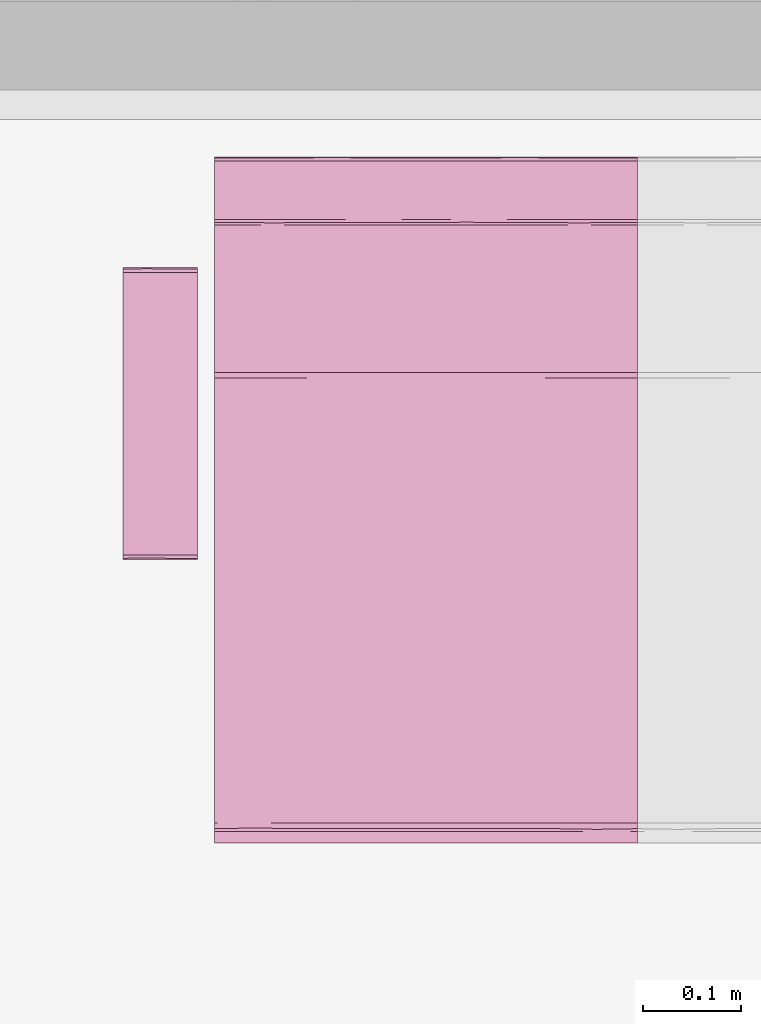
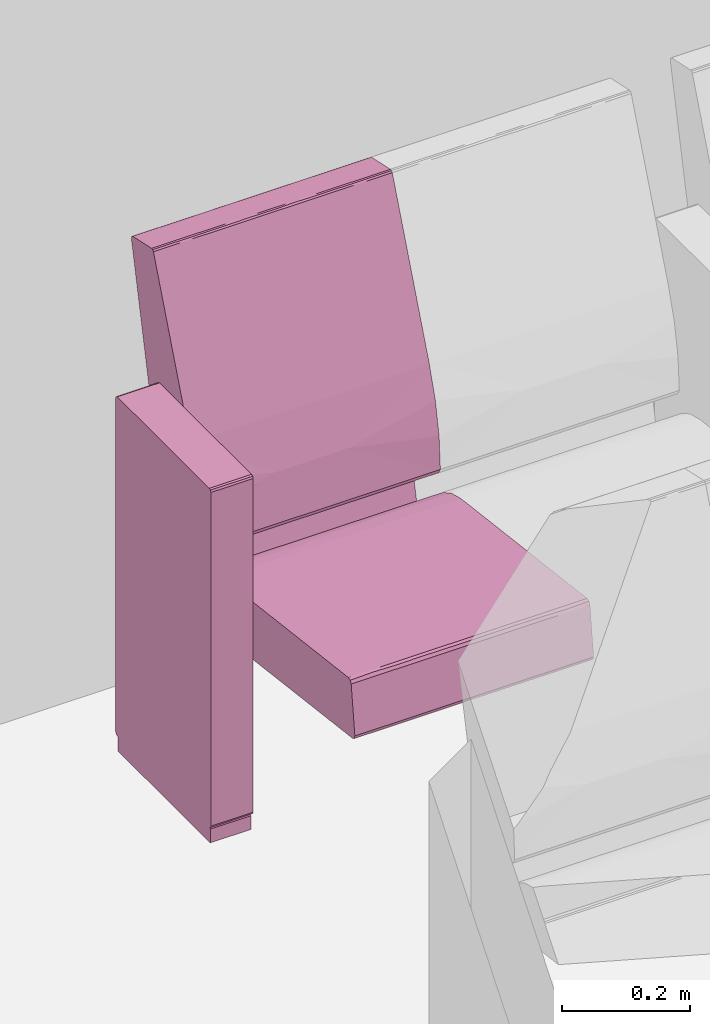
# One storey, part 127 of 155: 1 furnishing.
"""IFC2X3 building model written with IfcOpenShell, lengths in metres."""

from ifc_helpers import new_model, entity, si_unit, converted_unit, derived_unit, direction, frame, origin, place, context, subcontext, project, spatial, faceted_brep, source, transform, mapped, material, material_list, type_object, type_shapes, element, save


model = new_model("IFC2X3")

# Units and contexts
model_context = context("Model", 3, precision=1e-05, world=origin(), true_north=direction((6.12303176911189e-17, 1.0)))
body_context = subcontext(model_context, "Body", "Model", "MODEL_VIEW")
ifc_project = project(units=[si_unit("LENGTHUNIT", "METRE"), si_unit("AREAUNIT", "SQUARE_METRE"), si_unit("VOLUMEUNIT", "CUBIC_METRE"), converted_unit("PLANEANGLEUNIT", "DEGREE", entity("IfcRatioMeasure", 0.0174532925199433), si_unit("PLANEANGLEUNIT", "RADIAN"), dimensions=[0, 0, 0, 0, 0, 0, 0]), si_unit("MASSUNIT", "GRAM", prefix="KILO"), derived_unit("MASSDENSITYUNIT", [(si_unit("MASSUNIT", "GRAM", prefix="KILO"), 1), (si_unit("LENGTHUNIT", "METRE"), -3)]), si_unit("TIMEUNIT", "SECOND"), si_unit("FREQUENCYUNIT", "HERTZ"), si_unit("THERMODYNAMICTEMPERATUREUNIT", "DEGREE_CELSIUS"), derived_unit("THERMALTRANSMITTANCEUNIT", [(si_unit("MASSUNIT", "GRAM", prefix="KILO"), 1), (si_unit("THERMODYNAMICTEMPERATUREUNIT", "KELVIN"), -1), (si_unit("TIMEUNIT", "SECOND"), -3)]), derived_unit("VOLUMETRICFLOWRATEUNIT", [(si_unit("LENGTHUNIT", "METRE"), 3), (si_unit("TIMEUNIT", "SECOND"), -1)]), si_unit("ELECTRICCURRENTUNIT", "AMPERE"), si_unit("ELECTRICVOLTAGEUNIT", "VOLT"), si_unit("POWERUNIT", "WATT"), si_unit("FORCEUNIT", "NEWTON", prefix="KILO"), si_unit("ILLUMINANCEUNIT", "LUX"), si_unit("LUMINOUSFLUXUNIT", "LUMEN"), si_unit("LUMINOUSINTENSITYUNIT", "CANDELA"), derived_unit("USERDEFINED", [(si_unit("MASSUNIT", "GRAM", prefix="KILO"), -1), (si_unit("LENGTHUNIT", "METRE"), -2), (si_unit("TIMEUNIT", "SECOND"), 3), (si_unit("LUMINOUSFLUXUNIT", "LUMEN"), 1)]), derived_unit("LINEARVELOCITYUNIT", [(si_unit("LENGTHUNIT", "METRE"), 1), (si_unit("TIMEUNIT", "SECOND"), -1)]), si_unit("PRESSUREUNIT", "PASCAL"), derived_unit("USERDEFINED", [(si_unit("LENGTHUNIT", "METRE"), -2), (si_unit("MASSUNIT", "GRAM", prefix="KILO"), 1), (si_unit("TIMEUNIT", "SECOND"), -2)])], contexts=[model_context])

# Site, building, storey, space
site_placement = place(None, frame((26.9889013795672, -17.5624287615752, 0.0)))
site = spatial("IfcSite", under=ifc_project, at=site_placement, Name="Default", CompositionType="ELEMENT")
building_placement = place(site_placement, origin())
building = spatial("IfcBuilding", under=site, at=building_placement, Name="C. C. L. Monsenhor Antônio Sampaio", CompositionType="ELEMENT")
storey_placement = place(building_placement, frame((0.0, 0.0, 1.19999999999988)))
storey = spatial("IfcBuildingStorey", under=building, at=storey_placement, Name="Nível 1.2", CompositionType="ELEMENT", Elevation=1.19999999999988)
space_placement = place(storey_placement, origin())
space = spatial("IfcSpace", under=storey, at=space_placement, Name="94", CompositionType="ELEMENT", InteriorOrExteriorSpace="INTERNAL")

# Furnishing
ifc_material_1 = material(Name="V9 - V9 - Ecopelle_672_658")
ifc_material_2 = material(Name="V9 - V9 - RAL_9006_Grigio")
ifc_material_list_1 = material_list([ifc_material_1, ifc_material_2])
ifc_material_list_2 = material_list([ifc_material_1, ifc_material_2])
furniture_type = type_object("IfcFurnitureType", Name="Cadeira auditório", material=ifc_material_list_2)
shared_shape = source(origin(), body_context, "Body", "Brep", [
    faceted_brep([(0.405536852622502, 0.156348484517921, 0.339809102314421), (0.410560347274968, 0.131924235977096, 0.34246450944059), (0.405536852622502, 0.1075, 0.339809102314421), (0.405536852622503, 0.0537499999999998, 0.339809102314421), (0.410597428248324, 0.084060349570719, 0.342506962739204), (0.41079981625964, 0.0179166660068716, 0.342749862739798), (0.405536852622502, 0.215, 0.339809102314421), (0.410248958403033, 0.173608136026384, 0.342130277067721), (0.412515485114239, 0.185674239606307, 0.348529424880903), (0.412515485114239, 0.143333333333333, 0.348529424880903), (0.410560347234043, -0.131924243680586, 0.342464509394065), (0.405536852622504, -0.156348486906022, 0.33980910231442), (0.405536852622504, -0.1075, 0.33980910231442), (0.405536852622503, 0.0, 0.33980910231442), (0.41251548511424, 0.0, 0.348529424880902), (0.411170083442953, -0.0341365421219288, 0.343251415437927), (0.41059742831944, -0.0840603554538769, 0.342506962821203), (0.41251548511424, -0.143333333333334, 0.348529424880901), (0.412515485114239, 0.0358333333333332, 0.348529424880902), (0.412515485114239, 0.0716666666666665, 0.348529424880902), (0.405536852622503, -0.0537500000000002, 0.33980910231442), (0.412515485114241, -0.185674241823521, 0.348529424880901), (0.410799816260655, -0.215, 0.342749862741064), (0.410248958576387, -0.173608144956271, 0.342130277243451), (0.410799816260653, 0.215, 0.342749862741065), (0.412515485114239, 0.215, 0.348529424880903), (0.412515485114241, -0.215, 0.348529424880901), (0.41251548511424, -0.0716666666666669, 0.348529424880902), (0.405536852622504, -0.215, 0.33980910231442), (-0.0557900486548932, -0.215, 0.28268145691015), (-0.055790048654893, -0.168631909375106, 0.282681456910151), (-0.0557900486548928, -0.138065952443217, 0.282681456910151), (-0.0557900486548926, -0.107499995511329, 0.282681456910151), (-0.0557900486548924, -0.0806249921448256, 0.282681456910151), (-0.0557900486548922, -0.0537499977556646, 0.282681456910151), (-0.0557900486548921, -0.0268750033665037, 0.282681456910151), (-0.0557900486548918, 0.0, 0.28268145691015), (-0.0557900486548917, 0.0268749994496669, 0.282681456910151), (-0.0557900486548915, 0.0537499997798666, 0.282681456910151), (-0.0557900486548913, 0.0806250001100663, 0.282681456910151), (-0.0557900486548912, 0.107499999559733, 0.282681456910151), (-0.055790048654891, 0.134374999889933, 0.282681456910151), (-0.0557900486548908, 0.161250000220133, 0.282681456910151), (-0.0557900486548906, 0.1881249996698, 0.282681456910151), (-0.0557900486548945, 0.215, 0.28268145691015), (-0.0594787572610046, -0.0152829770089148, 0.283700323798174), (-0.0613666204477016, 0.0, 0.287029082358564), (-0.0594787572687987, 0.0179017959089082, 0.283700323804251), (-0.0613666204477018, 0.191815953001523, 0.287029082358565), (-0.0613666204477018, 0.215, 0.287029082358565), (-0.0594787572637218, 0.215, 0.283700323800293), (-0.0593340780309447, 0.0671874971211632, 0.283591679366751), (-0.0613666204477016, 0.030565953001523, 0.287029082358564), (-0.0594787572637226, -0.215, 0.283700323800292), (-0.0593337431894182, -0.184174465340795, 0.283591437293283), (-0.0613666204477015, -0.122263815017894, 0.287029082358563), (-0.0613666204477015, -0.0916978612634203, 0.287029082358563), (-0.0613666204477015, -0.0611319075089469, 0.287029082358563), (-0.0593023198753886, -0.0940625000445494, 0.283568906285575), (-0.059382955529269, 0.118123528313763, 0.28362747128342), (-0.0613666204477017, 0.122263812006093, 0.287029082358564), (-0.0597338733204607, 0.147039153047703, 0.283913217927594), (-0.0613666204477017, 0.168631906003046, 0.287029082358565), (-0.0592501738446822, 0.180223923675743, 0.283532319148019), (-0.0588783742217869, 0.0926899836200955, 0.283298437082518), (-0.0613666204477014, -0.215, 0.287029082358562), (-0.0613666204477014, -0.168631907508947, 0.287029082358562), (-0.0592576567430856, -0.123736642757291, 0.283537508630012), (-0.0594787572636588, -0.153348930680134, 0.283700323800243), (-0.0613666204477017, 0.0916978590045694, 0.287029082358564), (-0.0613666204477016, -0.0305659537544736, 0.287029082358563), (-0.059645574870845, -0.045848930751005, 0.283836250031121), (-0.0613666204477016, 0.0611319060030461, 0.287029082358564), (-0.069340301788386, -0.215, 0.351419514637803), (-0.0693403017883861, -0.143333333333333, 0.351419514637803), (-0.0693403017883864, -0.0716666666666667, 0.351419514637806), (-0.0693403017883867, 0.0, 0.351419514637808), (-0.069340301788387, 0.0716666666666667, 0.351419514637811), (-0.0693403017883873, 0.143333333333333, 0.351419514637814), (-0.0693403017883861, 0.215, 0.351419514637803), (-0.0597085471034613, 0.0, 0.37476954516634), (-0.0645543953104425, 0.112272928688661, 0.369803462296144), (-0.0653387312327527, 0.0126787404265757, 0.368680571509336), (-0.0681665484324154, -0.0888707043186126, 0.36292533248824), (-0.0655136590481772, -0.10440004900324, 0.368411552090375), (-0.0694879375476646, 0.0590582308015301, 0.356377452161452), (-0.0695056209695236, -0.125492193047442, 0.356093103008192), (-0.0597085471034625, -0.110316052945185, 0.374769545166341), (-0.0690003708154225, 0.132942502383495, 0.359900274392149), (-0.0672851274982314, 0.108066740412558, 0.365148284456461), (-0.0676206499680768, 0.215, 0.364371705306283), (-0.0686241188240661, 0.215, 0.356813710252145), (-0.0686241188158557, -0.214999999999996, 0.356813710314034), (-0.0686999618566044, 0.0358333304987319, 0.36116674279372), (-0.0694502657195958, -0.0358333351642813, 0.356863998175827), (-0.0676206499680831, -0.214999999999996, 0.364371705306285), (-0.0636645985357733, -0.214999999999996, 0.369570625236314), (-0.0597085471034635, -0.214999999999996, 0.374769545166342), (-0.0597085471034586, 0.215, 0.374769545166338), (-0.0636645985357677, 0.215, 0.36957062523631), (-0.0597085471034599, 0.110316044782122, 0.374769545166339), (-0.0324117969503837, 0.215, 0.390639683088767), (-0.0324117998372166, 0.0436847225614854, 0.39063968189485), (-0.0018793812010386, 0.215, 0.398686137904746), (-0.041847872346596, -0.0856576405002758, 0.386239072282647), (-0.0324117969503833, -0.215, 0.390639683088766), (-0.00187938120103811, -0.215, 0.398686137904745), (-0.00187938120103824, -0.102488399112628, 0.398686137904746), (-0.0219042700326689, -0.0570631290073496, 0.394412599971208), (-0.00187938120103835, 0.0, 0.398686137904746), (0.392202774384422, 0.215, 0.447486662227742), (0.392202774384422, -0.215, 0.447486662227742), (0.392202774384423, -0.156349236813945, 0.447486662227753), (0.392202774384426, -0.107499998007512, 0.447486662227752), (0.392202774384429, -0.0537500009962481, 0.44748666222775), (0.392202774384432, 0.0, 0.447486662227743), (0.392202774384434, 0.0537499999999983, 0.447486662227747), (0.392202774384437, 0.107499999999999, 0.447486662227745), (0.392202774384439, 0.156349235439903, 0.447486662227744), (0.398104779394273, -0.131924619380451, 0.445856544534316), (0.401125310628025, -0.0976984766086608, 0.440530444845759), (0.397860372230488, -0.0827732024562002, 0.446039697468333), (0.401125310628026, -0.215000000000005, 0.440530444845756), (0.401125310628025, -0.156349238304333, 0.440530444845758), (0.397373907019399, -0.173462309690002, 0.446363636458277), (0.398104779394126, -0.215000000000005, 0.445856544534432), (0.397860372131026, 0.0827731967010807, 0.446039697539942), (0.398104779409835, 0.131924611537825, 0.445856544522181), (0.398104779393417, -0.0237489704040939, 0.445856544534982), (0.398104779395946, 0.0268749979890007, 0.445856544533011), (0.401125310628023, 0.0488492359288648, 0.440530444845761), (0.401125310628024, -0.0488492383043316, 0.440530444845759), (0.398774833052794, 0.173462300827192, 0.445271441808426), (0.401125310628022, 0.097698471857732, 0.440530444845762), (0.401125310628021, 0.215, 0.440530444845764), (0.39810477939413, 0.215, 0.445856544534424), (0.401125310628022, 0.156349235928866, 0.440530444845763), (0.401125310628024, 0.0, 0.44053044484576)], [[[0, 1, 2]], [[3, 4, 5]], [[6, 7, 0]], [[7, 8, 9]], [[10, 11, 12]], [[3, 5, 13]], [[14, 15, 5]], [[16, 17, 10]], [[9, 1, 7]], [[18, 5, 4]], [[4, 9, 19, 18]], [[9, 4, 1]], [[2, 1, 4]], [[13, 15, 20]], [[21, 22, 23]], [[5, 18, 14]], [[24, 25, 8]], [[22, 21, 26]], [[24, 7, 6]], [[23, 11, 10]], [[20, 15, 16]], [[3, 2, 4]], [[14, 27, 15]], [[5, 15, 13]], [[27, 17, 16]], [[10, 12, 16]], [[21, 23, 17]], [[20, 16, 12]], [[15, 27, 16]], [[7, 1, 0]], [[28, 11, 23]], [[8, 7, 24]], [[23, 10, 17]], [[28, 23, 22]], [[28, 29, 30, 31, 32, 33, 34, 35, 36, 37, 38, 39, 40, 41, 42, 43, 44, 6, 0, 2, 3, 13, 20, 12, 11]], [[45, 46, 47]], [[48, 49, 50]], [[51, 47, 52]], [[29, 53, 54]], [[55, 56, 57, 58]], [[59, 60, 61]], [[61, 62, 63]], [[51, 64, 39]], [[65, 66, 54]], [[31, 67, 32]], [[45, 47, 38, 37, 36, 35]], [[68, 31, 30]], [[43, 50, 44]], [[63, 42, 61]], [[48, 50, 63]], [[64, 69, 59]], [[68, 54, 66]], [[63, 62, 48]], [[50, 43, 63]], [[67, 55, 58]], [[61, 42, 41]], [[45, 70, 46]], [[55, 68, 66]], [[71, 33, 58]], [[71, 57, 70]], [[41, 40, 59]], [[60, 62, 61]], [[71, 35, 34, 33]], [[35, 71, 45]], [[47, 46, 52]], [[45, 71, 70]], [[58, 57, 71]], [[32, 58, 33]], [[31, 68, 67]], [[54, 68, 30]], [[29, 54, 30]], [[54, 53, 65]], [[55, 67, 68]], [[32, 67, 58]], [[51, 52, 72, 69]], [[43, 42, 63]], [[41, 59, 61]], [[47, 51, 38]], [[40, 39, 64]], [[38, 51, 39]], [[69, 60, 59]], [[69, 64, 51]], [[40, 64, 59]], [[65, 73, 74, 75, 76, 77, 78, 79, 49, 48, 62, 60, 69, 72, 52, 46, 70, 57, 56, 55, 66]], [[80, 81, 82]], [[82, 83, 84]], [[78, 77, 76, 85]], [[86, 75, 74]], [[84, 80, 82]], [[80, 84, 87]], [[88, 89, 90]], [[91, 79, 78]], [[74, 73, 92]], [[85, 88, 91]], [[81, 89, 82]], [[93, 94, 83]], [[94, 86, 83]], [[85, 76, 94]], [[92, 86, 74]], [[85, 94, 93]], [[83, 92, 95]], [[75, 94, 76]], [[93, 83, 82]], [[95, 96, 84]], [[88, 85, 93]], [[96, 97, 87]], [[98, 99, 100]], [[78, 85, 91]], [[89, 88, 93]], [[90, 91, 88]], [[93, 82, 89]], [[81, 99, 89]], [[99, 90, 89]], [[100, 81, 80]], [[100, 99, 81]], [[83, 86, 92]], [[75, 86, 94]], [[95, 84, 83]], [[87, 84, 96]], [[101, 102, 103]], [[104, 80, 87, 97]], [[105, 106, 107]], [[107, 108, 105]], [[103, 102, 109]], [[104, 102, 80]], [[104, 108, 102]], [[98, 102, 101]], [[105, 104, 97]], [[105, 108, 104]], [[102, 98, 100, 80]], [[109, 108, 107]], [[109, 102, 108]], [[110, 103, 109, 107, 106, 111, 112, 113, 114, 115, 116, 117, 118]], [[119, 120, 121]], [[122, 123, 124]], [[111, 125, 124]], [[117, 116, 126]], [[124, 119, 112]], [[113, 112, 119]], [[127, 118, 117]], [[115, 114, 128, 129, 116]], [[129, 130, 126]], [[121, 131, 128]], [[127, 132, 118]], [[110, 118, 132]], [[127, 126, 133]], [[119, 124, 123]], [[134, 135, 132]], [[136, 132, 127]], [[120, 119, 123]], [[133, 136, 127]], [[137, 130, 129, 128, 131]], [[126, 127, 117]], [[130, 133, 126]], [[113, 119, 121]], [[129, 126, 116]], [[128, 114, 121]], [[114, 113, 121]], [[131, 121, 120]], [[111, 124, 112]], [[124, 125, 122]], [[134, 132, 136]], [[132, 135, 110]], [[19, 9, 8, 25, 134, 136, 133, 130, 137, 131, 120, 123, 122, 26, 21, 17, 27, 14, 18]], [[65, 53, 29, 28, 22, 26, 122, 125, 111, 106, 105, 97, 96, 95, 92, 73]], [[98, 101, 103, 110, 135, 134, 25, 24, 6, 44, 50, 49, 79, 91, 90, 99]]]),
    faceted_brep([(0.123144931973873, -0.283972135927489, 0.673627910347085), (0.12334838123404, -0.259944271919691, 0.6734355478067), (0.119812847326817, -0.27, 0.674900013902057), (0.124812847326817, -0.27, 0.669900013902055), (0.12334838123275, -0.232, 0.673435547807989), (0.119812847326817, -0.232, 0.674900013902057), (0.124812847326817, -0.308, 0.669900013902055), (0.119812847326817, -0.308, 0.674900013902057), (0.124812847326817, -0.249888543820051, 0.669900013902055), (0.124812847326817, -0.232, 0.669900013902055), (0.12334838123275, -0.308, 0.673435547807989), (0.124812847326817, -0.27, 0.035), (0.124812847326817, -0.232, 0.035), (0.124812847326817, -0.308, 0.0350000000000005), (0.123540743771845, -0.283972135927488, 0.0316679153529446), (0.12334838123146, -0.25994427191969, 0.0314644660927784), (0.119812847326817, -0.27, 0.0300000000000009), (0.12334838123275, -0.232, 0.0314644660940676), (0.119812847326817, -0.308, 0.0300000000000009), (0.119812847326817, -0.249888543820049, 0.030000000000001), (0.119812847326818, -0.232, 0.030000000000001), (0.123348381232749, -0.308, 0.0314644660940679), (-0.167179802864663, -0.308, 0.0300000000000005), (-0.167179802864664, -0.27, 0.0300000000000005), (-0.167179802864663, -0.232, 0.0300000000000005), (-0.17051188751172, -0.283972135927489, 0.0312721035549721), (-0.170715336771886, -0.25994427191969, 0.0314644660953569), (-0.172179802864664, -0.27, 0.0350000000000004), (-0.170715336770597, -0.232, 0.0314644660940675), (-0.172179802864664, -0.308, 0.0350000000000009), (-0.172179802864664, -0.24988854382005, 0.0350000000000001), (-0.172179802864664, -0.232, 0.0349999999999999), (-0.170715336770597, -0.308, 0.0314644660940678), (-0.172179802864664, -0.308, 0.669900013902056), (-0.172179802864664, -0.27, 0.669900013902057), (-0.172179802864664, -0.232, 0.669900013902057), (-0.170907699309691, -0.283972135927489, 0.673232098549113), (-0.170715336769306, -0.259944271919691, 0.673435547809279), (-0.167179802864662, -0.27, 0.674900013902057), (-0.170715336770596, -0.232, 0.67343554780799), (-0.167179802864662, -0.308, 0.674900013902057), (-0.167179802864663, -0.249888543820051, 0.674900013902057), (-0.167179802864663, -0.232, 0.674900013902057), (-0.170715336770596, -0.308, 0.67343554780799)], [[[0, 1, 2]], [[1, 0, 3]], [[1, 4, 5, 2]], [[6, 3, 0]], [[7, 0, 2]], [[4, 1, 3, 8, 9]], [[10, 0, 7]], [[0, 10, 6]], [[11, 12, 9, 8, 3, 6, 13]], [[14, 15, 11]], [[15, 14, 16]], [[15, 17, 12, 11]], [[18, 16, 14]], [[13, 14, 11]], [[17, 15, 16, 19, 20]], [[21, 14, 13]], [[14, 21, 18]], [[18, 22, 23, 24, 20, 19, 16]], [[25, 26, 23]], [[26, 25, 27]], [[26, 28, 24, 23]], [[29, 27, 25]], [[22, 25, 23]], [[28, 26, 27, 30, 31]], [[32, 25, 22]], [[25, 32, 29]], [[27, 29, 33, 34, 35, 31, 30]], [[36, 37, 34]], [[37, 36, 38]], [[37, 39, 35, 34]], [[40, 38, 36]], [[33, 36, 34]], [[39, 37, 38, 41, 42]], [[43, 36, 33]], [[36, 43, 40]], [[40, 7, 2, 5, 42, 41, 38]], [[35, 39, 42, 5, 4, 9, 12, 17, 20, 24, 28, 31]], [[29, 32, 22, 18, 21, 13, 6, 10, 7, 40, 43, 33]]]),
    faceted_brep([(-0.0695672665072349, 0.215, 0.476508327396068), (-0.074405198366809, 0.0524423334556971, 0.506888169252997), (-0.0655618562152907, 0.215, 0.415143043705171), (-0.0744051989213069, -0.0780075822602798, 0.506888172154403), (-0.0655618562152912, 0.0, 0.415143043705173), (-0.0655618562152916, -0.215, 0.415143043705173), (-0.0655618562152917, -0.1075, 0.415143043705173), (-0.0655618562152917, 0.1075, 0.415143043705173), (-0.0695672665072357, -0.215, 0.476508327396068), (-0.081111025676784, -0.215, 0.536911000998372), (-0.0811110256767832, 0.215, 0.536911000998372), (-0.100016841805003, 0.215, 0.595428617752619), (-0.100016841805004, 0.0, 0.595428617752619), (-0.100016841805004, -0.215, 0.595428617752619), (-0.0698317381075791, 0.0358333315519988, 0.406528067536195), (-0.0792851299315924, 0.0, 0.404772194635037), (-0.0792851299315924, 0.0716666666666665, 0.404772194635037), (-0.0792851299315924, -0.215, 0.404772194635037), (-0.0792851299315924, -0.143333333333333, 0.404772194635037), (-0.0698317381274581, -0.215, 0.406528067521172), (-0.0792851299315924, 0.143333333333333, 0.404772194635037), (-0.0792851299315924, 0.215, 0.404772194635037), (-0.0698317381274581, 0.215, 0.406528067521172), (-0.0694171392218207, 0.140338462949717, 0.406857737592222), (-0.0708115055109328, -0.0356393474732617, 0.405868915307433), (-0.0703502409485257, -0.107500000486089, 0.406159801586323), (-0.0792851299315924, -0.0716666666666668, 0.404772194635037), (-0.163837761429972, -0.215, 0.420611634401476), (-0.163837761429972, 0.215, 0.420611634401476), (-0.123612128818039, 0.215, 0.235917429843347), (-0.123612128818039, -0.215, 0.235917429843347), (-0.142059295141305, -0.215, 0.231899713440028), (-0.142059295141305, 0.215, 0.231899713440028), (-0.235388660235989, -0.215, 0.652619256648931), (-0.235388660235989, 0.215, 0.652619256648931), (-0.28428001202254, -0.215, 0.873004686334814), (-0.284280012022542, -0.191295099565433, 0.873004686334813), (-0.284280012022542, -0.161249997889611, 0.873004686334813), (-0.284280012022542, -0.134374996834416, 0.873004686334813), (-0.284280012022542, -0.107499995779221, 0.873004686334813), (-0.284280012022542, -0.0806249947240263, 0.873004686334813), (-0.284280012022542, -0.0537499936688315, 0.873004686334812), (-0.284280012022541, -0.0268749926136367, 0.873004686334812), (-0.28428001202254, 0.0, 0.873004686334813), (-0.284280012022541, 0.0268749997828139, 0.873004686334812), (-0.284280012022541, 0.0537500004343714, 0.873004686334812), (-0.284280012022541, 0.0806250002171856, 0.873004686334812), (-0.284280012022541, 0.1075, 0.873004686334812), (-0.284280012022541, 0.134374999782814, 0.873004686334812), (-0.28428001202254, 0.161249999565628, 0.873004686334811), (-0.28428001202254, 0.191295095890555, 0.873004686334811), (-0.28428001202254, 0.215, 0.873004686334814), (-0.283746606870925, 0.0872244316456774, 0.876674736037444), (-0.283504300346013, 0.0569644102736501, 0.877068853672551), (-0.283567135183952, -0.15546176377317, 0.876973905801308), (-0.283641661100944, -0.12093750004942, 0.87685511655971), (-0.283567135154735, 0.155461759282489, 0.876973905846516), (-0.28330409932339, 0.185293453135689, 0.877344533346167), (-0.283641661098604, 0.0179166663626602, 0.876855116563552), (-0.283641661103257, -0.0136463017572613, 0.876855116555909), (-0.280514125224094, -0.0358333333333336, 0.879190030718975), (-0.280514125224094, 0.0, 0.879190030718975), (-0.280514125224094, 0.0358333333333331, 0.879190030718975), (-0.280514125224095, -0.143333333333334, 0.879190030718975), (-0.280514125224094, -0.1075, 0.879190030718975), (-0.280514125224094, -0.071666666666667, 0.879190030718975), (-0.283746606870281, -0.0872244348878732, 0.876674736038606), (-0.280514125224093, 0.0716666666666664, 0.879190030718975), (-0.280514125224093, 0.1075, 0.879190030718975), (-0.283641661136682, 0.120937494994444, 0.876855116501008), (-0.280514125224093, 0.143333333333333, 0.879190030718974), (-0.283641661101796, 0.215, 0.876855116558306), (-0.283641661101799, -0.215, 0.876855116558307), (-0.283304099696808, -0.18529345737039, 0.877344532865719), (-0.280514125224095, -0.167590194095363, 0.879190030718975), (-0.280514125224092, 0.215, 0.879190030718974), (-0.280514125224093, 0.167590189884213, 0.879190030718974), (-0.280514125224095, -0.215, 0.879190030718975), (-0.283504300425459, -0.0569644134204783, 0.8770688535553), (-0.22111253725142, 0.215, 0.892176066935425), (-0.22111253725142, -0.215, 0.892176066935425), (-0.221112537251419, -0.191815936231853, 0.892176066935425), (-0.221112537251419, -0.161250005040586, 0.892176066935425), (-0.221112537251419, -0.134375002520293, 0.892176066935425), (-0.221112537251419, -0.1075, 0.892176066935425), (-0.221112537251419, -0.080624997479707, 0.892176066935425), (-0.221112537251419, -0.0537499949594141, 0.892176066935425), (-0.221112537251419, -0.0268750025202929, 0.892176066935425), (-0.221112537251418, 0.0, 0.892176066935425), (-0.221112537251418, 0.0268750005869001, 0.892176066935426), (-0.221112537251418, 0.05375000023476, 0.892176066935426), (-0.221112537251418, 0.0806249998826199, 0.892176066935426), (-0.221112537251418, 0.10749999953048, 0.892176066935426), (-0.221112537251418, 0.13437499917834, 0.892176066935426), (-0.221112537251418, 0.16124999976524, 0.892176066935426), (-0.221112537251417, 0.19181594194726, 0.892176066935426), (-0.215419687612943, 0.0, 0.889191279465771), (-0.215419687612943, 0.0358333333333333, 0.889191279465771), (-0.217722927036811, 0.0162353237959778, 0.891719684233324), (-0.217722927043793, -0.0134375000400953, 0.891719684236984), (-0.215419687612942, -0.191815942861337, 0.889191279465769), (-0.215419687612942, -0.168631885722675, 0.889191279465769), (-0.217722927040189, -0.182482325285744, 0.891719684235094), (-0.217722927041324, -0.215, 0.891719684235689), (-0.215419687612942, -0.215, 0.889191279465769), (-0.215419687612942, -0.1075, 0.88919127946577), (-0.215419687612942, -0.0716666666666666, 0.88919127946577), (-0.217722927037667, -0.0912646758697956, 0.891719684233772), (-0.217722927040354, -0.120937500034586, 0.89171968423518), (-0.215419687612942, -0.143333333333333, 0.88919127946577), (-0.215419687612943, 0.191815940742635, 0.889191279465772), (-0.215419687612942, 0.215, 0.889191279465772), (-0.217722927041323, 0.215, 0.89171968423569), (-0.217722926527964, 0.190103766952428, 0.891719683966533), (-0.217722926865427, 0.0912646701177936, 0.891719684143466), (-0.217816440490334, 0.0647800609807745, 0.891767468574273), (-0.215419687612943, 0.0716666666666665, 0.889191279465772), (-0.217816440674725, -0.0647800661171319, 0.891767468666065), (-0.2179983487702, -0.0390825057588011, 0.891853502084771), (-0.217558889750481, -0.155982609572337, 0.891629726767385), (-0.217722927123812, 0.120937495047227, 0.891719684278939), (-0.215419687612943, 0.16863188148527, 0.889191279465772), (-0.215419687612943, 0.143333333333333, 0.889191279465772), (-0.217558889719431, 0.15598260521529, 0.891629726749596), (-0.215419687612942, -0.0358333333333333, 0.889191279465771), (-0.215419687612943, 0.1075, 0.889191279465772), (-0.218257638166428, 0.0404491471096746, 0.891961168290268)], [[[0, 1, 2]], [[1, 3, 4]], [[3, 5, 6, 4]], [[1, 4, 7, 2]], [[5, 3, 8]], [[8, 3, 9]], [[0, 10, 1]], [[11, 12, 1]], [[3, 13, 9]], [[3, 12, 13]], [[11, 1, 10]], [[3, 1, 12]], [[14, 15, 16]], [[17, 18, 19]], [[20, 21, 22]], [[2, 23, 22]], [[14, 7, 4]], [[14, 24, 15]], [[6, 25, 24]], [[22, 23, 20]], [[14, 23, 7]], [[19, 6, 5]], [[4, 24, 14]], [[16, 23, 14]], [[16, 20, 23]], [[26, 25, 18]], [[25, 19, 18]], [[15, 24, 26]], [[23, 2, 7]], [[19, 25, 6]], [[26, 24, 25]], [[6, 24, 4]], [[15, 26, 18, 17, 27, 28, 21, 20, 16]], [[29, 28, 27, 30]], [[30, 31, 32, 29]], [[32, 31, 33, 34]], [[34, 33, 35, 36, 37, 38, 39, 40, 41, 42, 43, 44, 45, 46, 47, 48, 49, 50, 51]], [[52, 46, 53]], [[38, 54, 55]], [[56, 57, 49]], [[58, 59, 60, 61, 62]], [[63, 64, 55]], [[64, 65, 66]], [[52, 67, 68]], [[69, 70, 56]], [[49, 57, 50]], [[38, 55, 39]], [[71, 51, 50]], [[36, 35, 72]], [[59, 58, 44, 43, 42]], [[73, 74, 54]], [[55, 66, 39]], [[75, 57, 76]], [[77, 74, 73]], [[69, 52, 68]], [[37, 36, 73]], [[54, 74, 63]], [[56, 76, 57]], [[36, 72, 73]], [[75, 71, 57]], [[70, 76, 56]], [[52, 69, 47]], [[48, 47, 69]], [[42, 78, 59]], [[66, 55, 64]], [[50, 57, 71]], [[73, 54, 37]], [[77, 73, 72]], [[48, 69, 56]], [[56, 49, 48]], [[69, 68, 70]], [[53, 46, 45, 44]], [[58, 62, 53]], [[53, 44, 58]], [[38, 37, 54]], [[63, 55, 54]], [[78, 66, 65]], [[78, 40, 66]], [[67, 52, 53]], [[78, 42, 41, 40]], [[65, 60, 78]], [[59, 78, 60]], [[52, 47, 46]], [[40, 39, 66]], [[62, 67, 53]], [[79, 75, 76, 70, 68, 67, 62, 61, 60, 65, 64, 63, 74, 77, 80, 81, 82, 83, 84, 85, 86, 87, 88, 89, 90, 91, 92, 93, 94, 95]], [[96, 97, 98, 99]], [[100, 101, 102, 103, 104]], [[105, 106, 107, 108, 109]], [[110, 111, 112]], [[113, 112, 95]], [[114, 115, 116]], [[117, 118, 86]], [[82, 119, 83]], [[102, 82, 81, 80, 103]], [[112, 79, 95]], [[108, 107, 85, 84, 83]], [[88, 87, 99, 98, 89]], [[119, 101, 109]], [[93, 92, 120]], [[117, 85, 107]], [[113, 121, 110]], [[122, 121, 123]], [[113, 94, 123]], [[124, 99, 118]], [[122, 123, 120]], [[108, 119, 109]], [[113, 110, 112]], [[102, 101, 119]], [[119, 108, 83]], [[114, 125, 120]], [[123, 94, 93]], [[93, 120, 123]], [[114, 120, 92]], [[122, 120, 125]], [[117, 107, 106]], [[114, 92, 91]], [[116, 125, 114]], [[115, 91, 90]], [[85, 117, 86]], [[126, 89, 98]], [[117, 106, 124]], [[118, 99, 87]], [[124, 96, 99]], [[97, 116, 115]], [[97, 115, 126]], [[86, 118, 87]], [[124, 118, 117]], [[91, 115, 114]], [[115, 90, 126]], [[89, 126, 90]], [[97, 126, 98]], [[82, 102, 119]], [[94, 113, 95]], [[121, 113, 123]], [[11, 111, 110, 121, 122, 125, 116, 97, 96, 124, 106, 105, 109, 101, 100, 104, 13, 12]], [[27, 17, 19, 5, 8, 9, 13, 104, 103, 80, 77, 72, 35, 33, 31, 30]], [[51, 71, 75, 79, 112, 111, 11, 10, 0, 2, 22, 21, 28, 29, 32, 34]]]),
    faceted_brep([(0.120312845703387, -0.2335, 0.0), (0.120312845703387, -0.2335, 0.0260000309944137), (0.120312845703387, -0.249500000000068, 0.0260000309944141), (0.120312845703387, -0.27, 0.0260000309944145), (0.120312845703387, -0.3065, 0.0260000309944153), (0.120312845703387, -0.3065, 0.0), (-0.167687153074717, -0.3065, 0.0), (-0.167687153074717, -0.2335, 0.0), (-0.167687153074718, -0.27, 0.0260000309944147), (-0.167687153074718, -0.2335, 0.0260000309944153), (-0.167687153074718, -0.3065, 0.0260000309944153), (-0.166521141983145, -0.233500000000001, 0.0288228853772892), (-0.166521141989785, -0.257382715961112, 0.0288228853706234), (-0.163702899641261, -0.233500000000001, 0.0300000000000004), (-0.163702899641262, -0.3065, 0.0300000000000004), (-0.16652114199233, -0.279986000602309, 0.0288228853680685), (-0.166521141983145, -0.3065, 0.0288228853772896), (-0.163702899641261, -0.27, 0.0300000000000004), (0.116297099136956, -0.3065, 0.0300000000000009), (0.116297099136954, -0.269999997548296, 0.0300000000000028), (0.116297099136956, -0.2335, 0.0300000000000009), (0.119033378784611, -0.283124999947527, 0.0289323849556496), (0.1191357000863, -0.2335, 0.0288340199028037), (0.119135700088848, -0.259750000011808, 0.0288340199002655), (0.119135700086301, -0.3065, 0.0288340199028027)], [[[0, 1, 2, 3, 4, 5]], [[0, 5, 6, 7]], [[8, 9, 7, 6, 10]], [[11, 12, 13]], [[14, 15, 16]], [[15, 14, 17, 13, 12]], [[9, 8, 12, 11]], [[16, 15, 10]], [[8, 10, 15, 12]], [[14, 18, 19, 20, 13, 17]], [[21, 4, 3]], [[22, 20, 19, 23]], [[3, 2, 1, 22, 23]], [[24, 21, 18]], [[21, 3, 23]], [[18, 21, 19]], [[21, 24, 4]], [[21, 23, 19]], [[6, 5, 4, 24, 18, 14, 16, 10]], [[7, 9, 11, 13, 20, 22, 1, 0]]]),
])
type_shapes(furniture_type, [shared_shape])
furnishing_placement = place(space_placement, frame((-9.03594929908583, -10.4255921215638, 0.0), z_axis=(0.0, 0.0, 1.0), x_axis=(0.0, -1.0, 0.0)))
element("IfcFurnishingElement", 1, at=furnishing_placement, inside=space, type_object=furniture_type, material=ifc_material_list_1, Name="cadeira auditório pcd:Cadeira auditório", ObjectType="Cadeira auditório", context=body_context, shape_type="MappedRepresentation", body=[
    mapped(shared_shape, transform((0.0, 0.0, 0.0), scale=1.0)),
])

save(model, "model.ifc")
